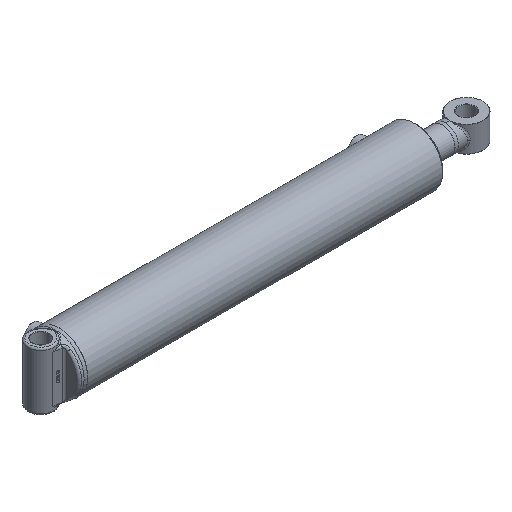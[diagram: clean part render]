
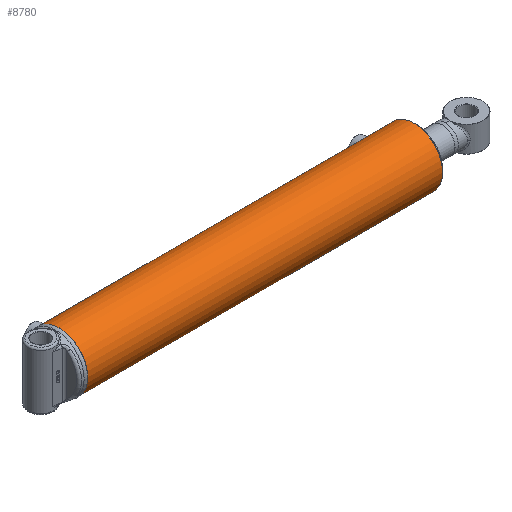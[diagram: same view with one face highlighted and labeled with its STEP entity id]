
A CAD part, isometric view. The second image highlights one B-rep face of the part: STEP entity #8780.
In plain terms, the highlighted cylindrical face has radius 56.356 mm (diameter 112.712 mm), a full revolution.
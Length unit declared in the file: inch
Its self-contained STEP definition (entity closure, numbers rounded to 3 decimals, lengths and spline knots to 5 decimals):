
#808=B_SPLINE_CURVE_WITH_KNOTS('',3,(#13133,#13134,#13135,#13136,#13137,
#13138,#13139,#13140,#13141,#13142),.UNSPECIFIED.,.F.,.F.,(4,2,2,2,4),(0.,
0.23942,0.47883,0.71824,0.95766),
 .UNSPECIFIED.);
#809=B_SPLINE_CURVE_WITH_KNOTS('',3,(#13143,#13144,#13145,#13146,#13147,
#13148,#13149,#13150,#13151,#13152,#13153,#13154,#13155,#13156,#13157,#13158,
#13159,#13160,#13161,#13162,#13163,#13164,#13165,#13166,#13167,#13168),
 .UNSPECIFIED.,.F.,.F.,(4,2,2,2,2,2,2,2,2,2,2,2,4),(0.95766,1.19707,
1.43649,1.6759,1.91532,2.15473,2.39415,
2.63356,2.87297,3.11239,3.3518,3.59122,
3.83063),.UNSPECIFIED.);
#810=B_SPLINE_CURVE_WITH_KNOTS('',3,(#13173,#13174,#13175,#13176,#13177,
#13178,#13179,#13180,#13181,#13182),.UNSPECIFIED.,.F.,.F.,(4,2,2,2,4),(0.,
0.23942,0.47883,0.71824,0.95766),
 .UNSPECIFIED.);
#811=B_SPLINE_CURVE_WITH_KNOTS('',3,(#13183,#13184,#13185,#13186,#13187,
#13188,#13189,#13190,#13191,#13192,#13193,#13194,#13195,#13196,#13197,#13198,
#13199,#13200,#13201,#13202,#13203,#13204,#13205,#13206,#13207,#13208),
 .UNSPECIFIED.,.F.,.F.,(4,2,2,2,2,2,2,2,2,2,2,2,4),(0.95766,1.19707,
1.43649,1.6759,1.91532,2.15473,2.39415,
2.63356,2.87297,3.11239,3.3518,3.59122,
3.83063),.UNSPECIFIED.);
#1096=FACE_BOUND('',#2595,.T.);
#1097=FACE_BOUND('',#2596,.T.);
#1352=LINE('',#13244,#1693);
#1693=VECTOR('',#10661,2.21875);
#2031=CYLINDRICAL_SURFACE('',#9525,2.21875);
#2119=FACE_OUTER_BOUND('',#2594,.T.);
#2594=EDGE_LOOP('',(#6139,#6140,#6141,#6142,#6143,#6144));
#2595=EDGE_LOOP('',(#6145,#6146));
#2596=EDGE_LOOP('',(#6147,#6148));
#3157=CIRCLE('',#9522,2.21875);
#3159=CIRCLE('',#9524,2.21875);
#3160=CIRCLE('',#9526,2.21875);
#3161=CIRCLE('',#9527,2.21875);
#3801=VERTEX_POINT('',#13130);
#3802=VERTEX_POINT('',#13132);
#3803=VERTEX_POINT('',#13170);
#3804=VERTEX_POINT('',#13172);
#3815=VERTEX_POINT('',#13237);
#3816=VERTEX_POINT('',#13238);
#3817=VERTEX_POINT('',#13243);
#3818=VERTEX_POINT('',#13245);
#4736=EDGE_CURVE('',#3802,#3801,#808,.T.);
#4737=EDGE_CURVE('',#3801,#3802,#809,.T.);
#4739=EDGE_CURVE('',#3804,#3803,#810,.T.);
#4740=EDGE_CURVE('',#3803,#3804,#811,.T.);
#4754=EDGE_CURVE('',#3815,#3816,#3157,.T.);
#4756=EDGE_CURVE('',#3816,#3815,#3159,.T.);
#4757=EDGE_CURVE('',#3815,#3817,#1352,.T.);
#4758=EDGE_CURVE('',#3818,#3817,#3160,.T.);
#4759=EDGE_CURVE('',#3817,#3818,#3161,.T.);
#6139=ORIENTED_EDGE('',*,*,#4754,.F.);
#6140=ORIENTED_EDGE('',*,*,#4757,.T.);
#6141=ORIENTED_EDGE('',*,*,#4758,.F.);
#6142=ORIENTED_EDGE('',*,*,#4759,.F.);
#6143=ORIENTED_EDGE('',*,*,#4757,.F.);
#6144=ORIENTED_EDGE('',*,*,#4756,.F.);
#6145=ORIENTED_EDGE('',*,*,#4736,.T.);
#6146=ORIENTED_EDGE('',*,*,#4737,.T.);
#6147=ORIENTED_EDGE('',*,*,#4739,.T.);
#6148=ORIENTED_EDGE('',*,*,#4740,.T.);
#8780=ADVANCED_FACE('',(#2119,#1096,#1097),#2031,.T.);
#9522=AXIS2_PLACEMENT_3D('',#13239,#10653,#10654);
#9524=AXIS2_PLACEMENT_3D('',#13241,#10657,#10658);
#9525=AXIS2_PLACEMENT_3D('',#13242,#10659,#10660);
#9526=AXIS2_PLACEMENT_3D('',#13246,#10662,#10663);
#9527=AXIS2_PLACEMENT_3D('',#13247,#10664,#10665);
#10653=DIRECTION('center_axis',(1.,0.,0.));
#10654=DIRECTION('ref_axis',(0.,-1.,0.));
#10657=DIRECTION('center_axis',(1.,0.,0.));
#10658=DIRECTION('ref_axis',(0.,-1.,0.));
#10659=DIRECTION('center_axis',(1.,0.,0.));
#10660=DIRECTION('ref_axis',(0.,-1.,0.));
#10661=DIRECTION('',(-1.,0.,0.));
#10662=DIRECTION('center_axis',(-1.,0.,0.));
#10663=DIRECTION('ref_axis',(0.,-1.,0.));
#10664=DIRECTION('center_axis',(-1.,0.,0.));
#10665=DIRECTION('ref_axis',(0.,-1.,0.));
#13130=CARTESIAN_POINT('',(0.75,0.,2.21875));
#13132=CARTESIAN_POINT('',(1.,-0.25,2.20462));
#13133=CARTESIAN_POINT('Ctrl Pts',(1.,-0.25,2.20462));
#13134=CARTESIAN_POINT('Ctrl Pts',(0.96858,-0.25,2.20462));
#13135=CARTESIAN_POINT('Ctrl Pts',(0.93509,-0.24372,
2.20536));
#13136=CARTESIAN_POINT('Ctrl Pts',(0.8735,-0.21819,
2.20803));
#13137=CARTESIAN_POINT('Ctrl Pts',(0.8454,-0.19896,
2.20992));
#13138=CARTESIAN_POINT('Ctrl Pts',(0.80104,-0.1546,
2.21347));
#13139=CARTESIAN_POINT('Ctrl Pts',(0.78181,-0.1265,
2.21536));
#13140=CARTESIAN_POINT('Ctrl Pts',(0.75628,-0.06491,
2.21801));
#13141=CARTESIAN_POINT('Ctrl Pts',(0.75,-0.03142,2.21875));
#13142=CARTESIAN_POINT('Ctrl Pts',(0.75,0.,2.21875));
#13143=CARTESIAN_POINT('Ctrl Pts',(0.75,0.,2.21875));
#13144=CARTESIAN_POINT('Ctrl Pts',(0.75,0.03142,2.21875));
#13145=CARTESIAN_POINT('Ctrl Pts',(0.75628,0.06491,2.21801));
#13146=CARTESIAN_POINT('Ctrl Pts',(0.78181,0.1265,
2.21536));
#13147=CARTESIAN_POINT('Ctrl Pts',(0.80104,0.1546,
2.21347));
#13148=CARTESIAN_POINT('Ctrl Pts',(0.8454,0.19896,
2.20992));
#13149=CARTESIAN_POINT('Ctrl Pts',(0.8735,0.21819,2.20803));
#13150=CARTESIAN_POINT('Ctrl Pts',(0.93509,0.24372,
2.20536));
#13151=CARTESIAN_POINT('Ctrl Pts',(0.96858,0.25,2.20462));
#13152=CARTESIAN_POINT('Ctrl Pts',(1.03142,0.25,2.20462));
#13153=CARTESIAN_POINT('Ctrl Pts',(1.06491,0.24372,2.20536));
#13154=CARTESIAN_POINT('Ctrl Pts',(1.1265,0.21819,2.20803));
#13155=CARTESIAN_POINT('Ctrl Pts',(1.1546,0.19896,2.20992));
#13156=CARTESIAN_POINT('Ctrl Pts',(1.19896,0.1546,2.21347));
#13157=CARTESIAN_POINT('Ctrl Pts',(1.21819,0.1265,2.21536));
#13158=CARTESIAN_POINT('Ctrl Pts',(1.24372,0.06491,
2.21801));
#13159=CARTESIAN_POINT('Ctrl Pts',(1.25,0.03142,2.21875));
#13160=CARTESIAN_POINT('Ctrl Pts',(1.25,-0.03142,2.21875));
#13161=CARTESIAN_POINT('Ctrl Pts',(1.24372,-0.06491,
2.21801));
#13162=CARTESIAN_POINT('Ctrl Pts',(1.21819,-0.1265,
2.21536));
#13163=CARTESIAN_POINT('Ctrl Pts',(1.19896,-0.1546,
2.21347));
#13164=CARTESIAN_POINT('Ctrl Pts',(1.1546,-0.19896,
2.20992));
#13165=CARTESIAN_POINT('Ctrl Pts',(1.1265,-0.21819,2.20803));
#13166=CARTESIAN_POINT('Ctrl Pts',(1.06491,-0.24372,2.20536));
#13167=CARTESIAN_POINT('Ctrl Pts',(1.03142,-0.25,2.20462));
#13168=CARTESIAN_POINT('Ctrl Pts',(1.,-0.25,2.20462));
#13170=CARTESIAN_POINT('',(25.87,0.,2.21875));
#13172=CARTESIAN_POINT('',(26.12,-0.25,2.20462));
#13173=CARTESIAN_POINT('Ctrl Pts',(26.12,-0.25,2.20462));
#13174=CARTESIAN_POINT('Ctrl Pts',(26.08858,-0.25,
2.20462));
#13175=CARTESIAN_POINT('Ctrl Pts',(26.05509,-0.24372,
2.20536));
#13176=CARTESIAN_POINT('Ctrl Pts',(25.9935,-0.21819,
2.20803));
#13177=CARTESIAN_POINT('Ctrl Pts',(25.9654,-0.19896,2.20992));
#13178=CARTESIAN_POINT('Ctrl Pts',(25.92104,-0.1546,
2.21347));
#13179=CARTESIAN_POINT('Ctrl Pts',(25.90181,-0.1265,
2.21536));
#13180=CARTESIAN_POINT('Ctrl Pts',(25.87628,-0.06491,
2.21801));
#13181=CARTESIAN_POINT('Ctrl Pts',(25.87,-0.03142,2.21875));
#13182=CARTESIAN_POINT('Ctrl Pts',(25.87,0.,2.21875));
#13183=CARTESIAN_POINT('Ctrl Pts',(25.87,0.,2.21875));
#13184=CARTESIAN_POINT('Ctrl Pts',(25.87,0.03142,2.21875));
#13185=CARTESIAN_POINT('Ctrl Pts',(25.87628,0.06491,
2.21801));
#13186=CARTESIAN_POINT('Ctrl Pts',(25.90181,0.1265,2.21536));
#13187=CARTESIAN_POINT('Ctrl Pts',(25.92104,0.1546,2.21347));
#13188=CARTESIAN_POINT('Ctrl Pts',(25.9654,0.19896,2.20992));
#13189=CARTESIAN_POINT('Ctrl Pts',(25.9935,0.21819,2.20803));
#13190=CARTESIAN_POINT('Ctrl Pts',(26.05509,0.24372,2.20536));
#13191=CARTESIAN_POINT('Ctrl Pts',(26.08858,0.25,2.20462));
#13192=CARTESIAN_POINT('Ctrl Pts',(26.15142,0.25,2.20462));
#13193=CARTESIAN_POINT('Ctrl Pts',(26.18491,0.24372,2.20536));
#13194=CARTESIAN_POINT('Ctrl Pts',(26.2465,0.21819,2.20803));
#13195=CARTESIAN_POINT('Ctrl Pts',(26.2746,0.19896,2.20992));
#13196=CARTESIAN_POINT('Ctrl Pts',(26.31896,0.1546,2.21347));
#13197=CARTESIAN_POINT('Ctrl Pts',(26.33819,0.1265,2.21536));
#13198=CARTESIAN_POINT('Ctrl Pts',(26.36372,0.06491,
2.21801));
#13199=CARTESIAN_POINT('Ctrl Pts',(26.37,0.03142,2.21875));
#13200=CARTESIAN_POINT('Ctrl Pts',(26.37,-0.03142,2.21875));
#13201=CARTESIAN_POINT('Ctrl Pts',(26.36372,-0.06491,
2.21801));
#13202=CARTESIAN_POINT('Ctrl Pts',(26.33819,-0.1265,
2.21536));
#13203=CARTESIAN_POINT('Ctrl Pts',(26.31896,-0.1546,
2.21347));
#13204=CARTESIAN_POINT('Ctrl Pts',(26.2746,-0.19896,2.20992));
#13205=CARTESIAN_POINT('Ctrl Pts',(26.2465,-0.21819,
2.20803));
#13206=CARTESIAN_POINT('Ctrl Pts',(26.18491,-0.24372,
2.20536));
#13207=CARTESIAN_POINT('Ctrl Pts',(26.15142,-0.25,
2.20462));
#13208=CARTESIAN_POINT('Ctrl Pts',(26.12,-0.25,2.20462));
#13237=CARTESIAN_POINT('',(27.61,2.21875,0.));
#13238=CARTESIAN_POINT('',(27.61,0.,-2.21875));
#13239=CARTESIAN_POINT('Origin',(27.61,0.,0.));
#13241=CARTESIAN_POINT('Origin',(27.61,0.,0.));
#13242=CARTESIAN_POINT('Origin',(0.,0.,0.));
#13243=CARTESIAN_POINT('',(0.11186,2.21875,0.));
#13244=CARTESIAN_POINT('',(0.,2.21875,0.));
#13245=CARTESIAN_POINT('',(0.11186,0.,2.21875));
#13246=CARTESIAN_POINT('Origin',(0.11186,0.,0.));
#13247=CARTESIAN_POINT('Origin',(0.11186,0.,0.));
